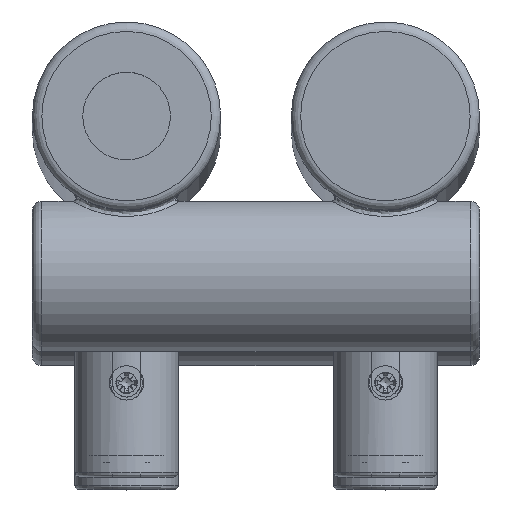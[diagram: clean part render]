
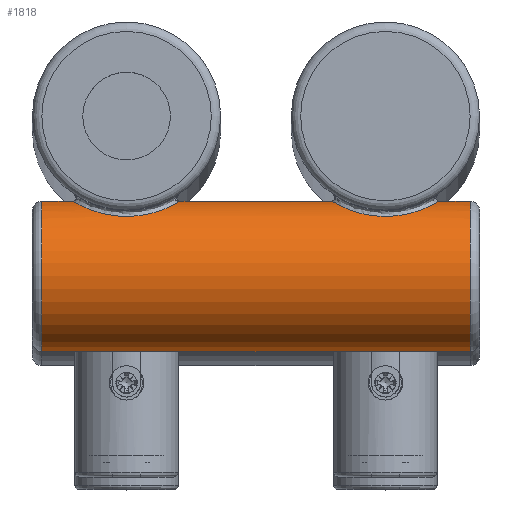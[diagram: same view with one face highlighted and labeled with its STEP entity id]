
A CAD part, top view. The second image highlights one B-rep face of the part: STEP entity #1818.
In plain terms, the highlighted cylindrical face has radius 16 mm (diameter 32 mm), a full revolution.
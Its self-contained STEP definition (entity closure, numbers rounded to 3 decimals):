
#157=FACE_BOUND('',#479,.T.);
#158=FACE_BOUND('',#480,.T.);
#177=LINE('',#3694,#249);
#249=VECTOR('',#2274,16.);
#321=CYLINDRICAL_SURFACE('',#1989,16.);
#353=FACE_OUTER_BOUND('',#478,.T.);
#478=EDGE_LOOP('',(#1288,#1289,#1290,#1291));
#479=EDGE_LOOP('',(#1292));
#480=EDGE_LOOP('',(#1293));
#614=B_SPLINE_CURVE_WITH_KNOTS('',3,(#3665,#3666,#3667,#3668,#3669,#3670,
#3671,#3672,#3673,#3674,#3675,#3676,#3677,#3678,#3679,#3680,#3681,#3682,
#3683,#3684,#3685,#3686,#3687,#3688,#3689),.UNSPECIFIED.,.T.,.F.,(4,1,1,
1,1,1,1,1,1,1,1,1,1,1,1,1,1,1,1,1,1,1,4),(0.,0.367,0.733,
0.756,0.779,0.825,0.916,
1.1,1.466,1.955,2.199,2.322,
2.444,2.688,2.933,3.177,3.421,
3.666,3.91,4.154,4.399,4.765,
5.132),.UNSPECIFIED.);
#615=B_SPLINE_CURVE_WITH_KNOTS('',3,(#3697,#3698,#3699,#3700,#3701,#3702,
#3703,#3704,#3705,#3706,#3707,#3708,#3709,#3710,#3711,#3712,#3713,#3714,
#3715,#3716,#3717,#3718,#3719,#3720,#3721),.UNSPECIFIED.,.T.,.F.,(4,1,1,
1,1,1,1,1,1,1,1,1,1,1,1,1,1,1,1,1,1,1,4),(0.,0.367,0.733,
1.1,1.283,1.466,1.711,1.955,
2.077,2.199,2.444,2.933,3.177,
3.421,3.666,3.788,3.91,4.154,
4.277,4.399,4.582,4.765,5.132),
 .UNSPECIFIED.);
#660=CIRCLE('',#1990,16.);
#661=CIRCLE('',#1991,16.);
#802=VERTEX_POINT('',#3663);
#803=VERTEX_POINT('',#3691);
#804=VERTEX_POINT('',#3693);
#805=VERTEX_POINT('',#3696);
#998=EDGE_CURVE('',#802,#802,#614,.T.);
#999=EDGE_CURVE('',#803,#803,#660,.T.);
#1000=EDGE_CURVE('',#803,#804,#177,.T.);
#1001=EDGE_CURVE('',#804,#804,#661,.T.);
#1002=EDGE_CURVE('',#805,#805,#615,.T.);
#1288=ORIENTED_EDGE('',*,*,#999,.F.);
#1289=ORIENTED_EDGE('',*,*,#1000,.T.);
#1290=ORIENTED_EDGE('',*,*,#1001,.F.);
#1291=ORIENTED_EDGE('',*,*,#1000,.F.);
#1292=ORIENTED_EDGE('',*,*,#1002,.F.);
#1293=ORIENTED_EDGE('',*,*,#998,.F.);
#1818=ADVANCED_FACE('',(#353,#157,#158),#321,.T.);
#1989=AXIS2_PLACEMENT_3D('',#3690,#2270,#2271);
#1990=AXIS2_PLACEMENT_3D('',#3692,#2272,#2273);
#1991=AXIS2_PLACEMENT_3D('',#3695,#2275,#2276);
#2270=DIRECTION('center_axis',(-1.,0.,0.));
#2271=DIRECTION('ref_axis',(0.,0.,1.));
#2272=DIRECTION('center_axis',(-1.,0.,0.));
#2273=DIRECTION('ref_axis',(0.,0.,1.));
#2274=DIRECTION('',(1.,0.,0.));
#2275=DIRECTION('center_axis',(1.,0.,0.));
#2276=DIRECTION('ref_axis',(0.,0.,1.));
#3663=CARTESIAN_POINT('',(-55.,-21.257,1769.676));
#3665=CARTESIAN_POINT('Ctrl Pts',(-55.,-21.257,1769.676));
#3666=CARTESIAN_POINT('Ctrl Pts',(-53.333,-21.257,1769.676));
#3667=CARTESIAN_POINT('Ctrl Pts',(-49.993,-20.856,1769.184));
#3668=CARTESIAN_POINT('Ctrl Pts',(-47.133,-19.807,1767.498));
#3669=CARTESIAN_POINT('Ctrl Pts',(-45.941,-19.258,1766.223));
#3670=CARTESIAN_POINT('Ctrl Pts',(-45.686,-19.137,1765.931));
#3671=CARTESIAN_POINT('Ctrl Pts',(-45.266,-18.931,1765.398));
#3672=CARTESIAN_POINT('Ctrl Pts',(-44.533,-18.546,1764.247));
#3673=CARTESIAN_POINT('Ctrl Pts',(-43.543,-17.949,1761.665));
#3674=CARTESIAN_POINT('Ctrl Pts',(-43.519,-17.942,1756.937));
#3675=CARTESIAN_POINT('Ctrl Pts',(-46.228,-19.553,1752.87));
#3676=CARTESIAN_POINT('Ctrl Pts',(-49.596,-20.618,1751.22));
#3677=CARTESIAN_POINT('Ctrl Pts',(-51.694,-21.024,1750.635));
#3678=CARTESIAN_POINT('Ctrl Pts',(-53.879,-21.279,1750.296));
#3679=CARTESIAN_POINT('Ctrl Pts',(-56.681,-21.278,1750.295));
#3680=CARTESIAN_POINT('Ctrl Pts',(-59.928,-20.769,1750.977));
#3681=CARTESIAN_POINT('Ctrl Pts',(-62.797,-19.861,1752.415));
#3682=CARTESIAN_POINT('Ctrl Pts',(-64.987,-18.831,1754.662));
#3683=CARTESIAN_POINT('Ctrl Pts',(-66.25,-18.078,1757.581));
#3684=CARTESIAN_POINT('Ctrl Pts',(-66.504,-17.911,1760.817));
#3685=CARTESIAN_POINT('Ctrl Pts',(-65.743,-18.396,1763.943));
#3686=CARTESIAN_POINT('Ctrl Pts',(-63.706,-19.497,1767.001));
#3687=CARTESIAN_POINT('Ctrl Pts',(-60.007,-20.859,1769.186));
#3688=CARTESIAN_POINT('Ctrl Pts',(-56.667,-21.257,1769.676));
#3689=CARTESIAN_POINT('Ctrl Pts',(-55.,-21.257,1769.676));
#3690=CARTESIAN_POINT('Origin',(20.,-34.,1760.));
#3691=CARTESIAN_POINT('',(-73.,-34.,1744.));
#3692=CARTESIAN_POINT('Origin',(-73.,-34.,1760.));
#3693=CARTESIAN_POINT('',(18.,-34.,1744.));
#3694=CARTESIAN_POINT('',(20.,-34.,1744.));
#3695=CARTESIAN_POINT('Origin',(18.,-34.,1760.));
#3696=CARTESIAN_POINT('',(0.,-21.257,1769.676));
#3697=CARTESIAN_POINT('Ctrl Pts',(0.,-21.257,
1769.676));
#3698=CARTESIAN_POINT('Ctrl Pts',(1.667,-21.257,1769.676));
#3699=CARTESIAN_POINT('Ctrl Pts',(5.005,-20.862,1769.184));
#3700=CARTESIAN_POINT('Ctrl Pts',(9.172,-19.323,1766.732));
#3701=CARTESIAN_POINT('Ctrl Pts',(11.085,-18.177,1763.197));
#3702=CARTESIAN_POINT('Ctrl Pts',(11.461,-17.94,1759.999));
#3703=CARTESIAN_POINT('Ctrl Pts',(11.146,-18.139,1757.337));
#3704=CARTESIAN_POINT('Ctrl Pts',(9.987,-18.832,1754.662));
#3705=CARTESIAN_POINT('Ctrl Pts',(8.163,-19.688,1752.79));
#3706=CARTESIAN_POINT('Ctrl Pts',(6.363,-20.315,1751.696));
#3707=CARTESIAN_POINT('Ctrl Pts',(4.387,-20.85,1750.862));
#3708=CARTESIAN_POINT('Ctrl Pts',(0.602,-21.46,1750.076));
#3709=CARTESIAN_POINT('Ctrl Pts',(-3.97,-21.079,1750.503));
#3710=CARTESIAN_POINT('Ctrl Pts',(-7.798,-19.86,1752.413));
#3711=CARTESIAN_POINT('Ctrl Pts',(-9.986,-18.833,1754.664));
#3712=CARTESIAN_POINT('Ctrl Pts',(-11.04,-18.204,1757.095));
#3713=CARTESIAN_POINT('Ctrl Pts',(-11.377,-17.994,1759.199));
#3714=CARTESIAN_POINT('Ctrl Pts',(-11.377,-17.992,1761.337));
#3715=CARTESIAN_POINT('Ctrl Pts',(-10.869,-18.315,1763.422));
#3716=CARTESIAN_POINT('Ctrl Pts',(-9.87,-18.866,1765.253));
#3717=CARTESIAN_POINT('Ctrl Pts',(-8.73,-19.426,1766.665));
#3718=CARTESIAN_POINT('Ctrl Pts',(-7.088,-20.096,1767.962));
#3719=CARTESIAN_POINT('Ctrl Pts',(-4.172,-20.954,1769.303));
#3720=CARTESIAN_POINT('Ctrl Pts',(-1.667,-21.257,1769.676));
#3721=CARTESIAN_POINT('Ctrl Pts',(0.,-21.257,
1769.676));
